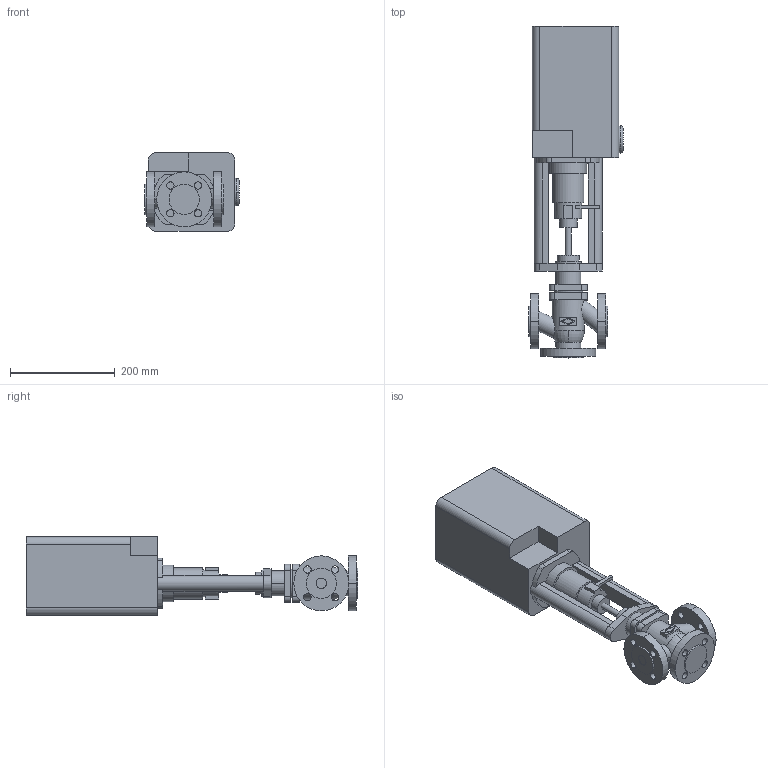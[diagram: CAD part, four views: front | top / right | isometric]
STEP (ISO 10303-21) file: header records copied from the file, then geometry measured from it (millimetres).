
FILE_DESCRIPTION(('OneSpaceDesigner STEP Export'),'2;1');
FILE_NAME('c000000389.stp','2006-09-19T11:46:52',(''),(''),'OneSpace Designer STEP processor for AP214 (Solid Model)','OneSpace Designer 13.20A 18-Aug-2005 (C) CoCreate Software GmbH','');
FILE_SCHEMA(('AUTOMOTIVE_DESIGN { 1 0 10303 214 1 1 1 1 }'));
Length unit declared in the file: millimetre
Products named in the file (2): 1; 2
Bounding box: 179.6 x 634 x 150 mm (x, y, z)
Volume: 7770415 mm3; surface area: 403703.2 mm2
Topology: 2 solids, 2 shells, 192 faces, 485 edges, 323 vertices
Faces by surface type: cylinder 94, plane 94, torus 4
Entity records: 5509 total; most frequent: CARTESIAN_POINT 1036, ORIENTED_EDGE 970, DIRECTION 851, EDGE_CURVE 485, VERTEX_POINT 323, AXIS2_PLACEMENT_3D 294, VECTOR 263, LINE 263
